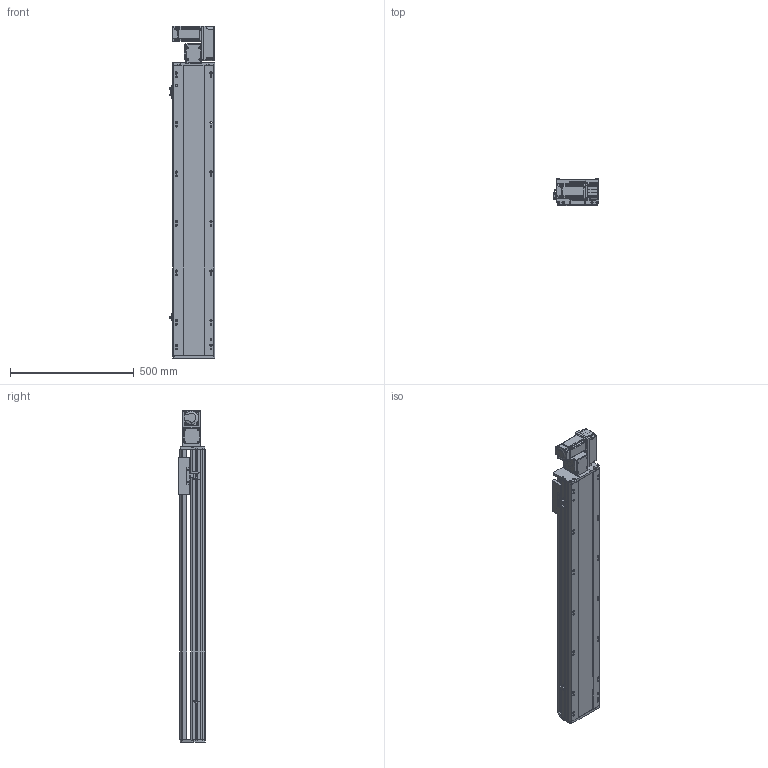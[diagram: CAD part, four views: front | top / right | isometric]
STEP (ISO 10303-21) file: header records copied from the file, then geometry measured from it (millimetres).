
FILE_DESCRIPTION (( 'STEP AP214' ), '1' );
FILE_NAME ('RTB17S-XX-900-R-M40-C4.STEP', '2025-12-11T07:37:13', ( '' ), ( '' ), 'SwSTEP 2.0', 'SolidWorks 2018', '' );
FILE_SCHEMA (( 'AUTOMOTIVE_DESIGN' ));
Length unit declared in the file: millimetre
Products named in the file (14): RTB14-L-008-M20--萇儂啣^RTB17S-R-々湍釱蚾饜-400W_RTB17S-XX-XX-R-M40-C4; RTB17S-L-007奻裔^RTB17S-XX-XX-R-M40-C4; RTB14-L-005P--轴承塑胶压盖^RTB17S-R-皮带座装配-400W_RTB17S-XX-XX-R-M40-C4; RTB17S-XX-900-R-M40-C4; RTB17S-R-々湍釱蚾饜-400W^RTB17S-XX-XX-R-M40-C4; RTB17S-L-001耜醱啣^RTB17S-XX-XX-R-M40-C4; RTB14-L-017P^RTB17S-R-々湍釱蚾饜-400W_RTB17S-XX-XX-R-M40-C4; RTH13-BL-012覜茼え俋离^RTB17S-XX-XX-R-M40-C4; RTB17S-L-004佪裝蹟譫蟀諉釱^RTB17S-XX-XX-R-M40-C4; OMRON EE-SX672 传感器^RTB17S-XX-XX-R-M40-C4; RTB17S-L-014-T20--々湍釱^RTB17S-R-々湍釱蚾饜-400W_RTB17S-XX-XX-R-M40-C4; 400W侜督萇儂^RTB17S-XX-XX-R-M40-C4; RTB14-L-018P^RTB17S-R-々湍釱蚾饜-400W_RTB17S-XX-XX-R-M40-C4; RTB17-R-011菁釱^RTB17S-XX-XX-R-M40-C4
Assembly tree (16 placements, depth 3):
  RTB17S-XX-900-R-M40-C4
    RTB17-R-011菁釱^RTB17S-XX-XX-R-M40-C4
    RTB17S-L-007奻裔^RTB17S-XX-XX-R-M40-C4
    OMRON EE-SX672 传感器^RTB17S-XX-XX-R-M40-C4  x3
    RTB17S-L-001耜醱啣^RTB17S-XX-XX-R-M40-C4
    400W侜督萇儂^RTB17S-XX-XX-R-M40-C4
    RTB17S-L-004佪裝蹟譫蟀諉釱^RTB17S-XX-XX-R-M40-C4
    RTH13-BL-012覜茼え俋离^RTB17S-XX-XX-R-M40-C4
    RTB17S-R-々湍釱蚾饜-400W^RTB17S-XX-XX-R-M40-C4
      RTB17S-L-014-T20--々湍釱^RTB17S-R-々湍釱蚾饜-400W_RTB17S-XX-XX-R-M40-C4
      RTB14-L-005P--轴承塑胶压盖^RTB17S-R-皮带座装配-400W_RTB17S-XX-XX-R-M40-C4
      RTB14-L-008-M20--萇儂啣^RTB17S-R-々湍釱蚾饜-400W_RTB17S-XX-XX-R-M40-C4
      RTB14-L-017P^RTB17S-R-々湍釱蚾饜-400W_RTB17S-XX-XX-R-M40-C4  x2
      RTB14-L-018P^RTB17S-R-々湍釱蚾饜-400W_RTB17S-XX-XX-R-M40-C4
Bounding box: 183.5 x 108 x 1341 mm (x, y, z)
Volume: 11556255 mm3; surface area: 1410035 mm2
Topology: 15 solids, 15 shells, 2205 faces, 6087 edges, 3969 vertices
Faces by surface type: plane 1068, cylinder 689, bspline 301, cone 139, torus 8
Entity records: 62633 total; most frequent: CARTESIAN_POINT 17492, ORIENTED_EDGE 9018, DIRECTION 8396, EDGE_CURVE 4509, VERTEX_POINT 2957, AXIS2_PLACEMENT_3D 2887, VECTOR 2622, LINE 2622
